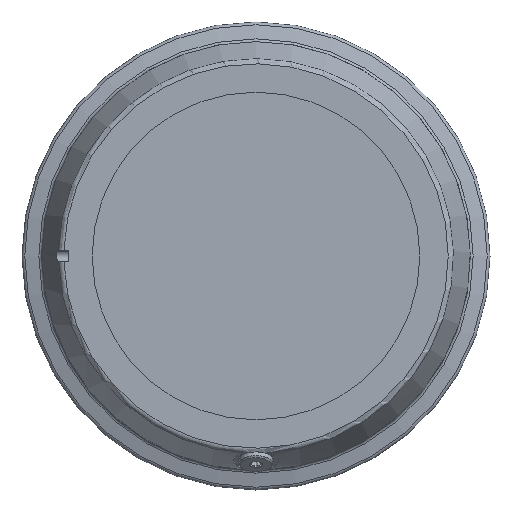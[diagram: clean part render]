
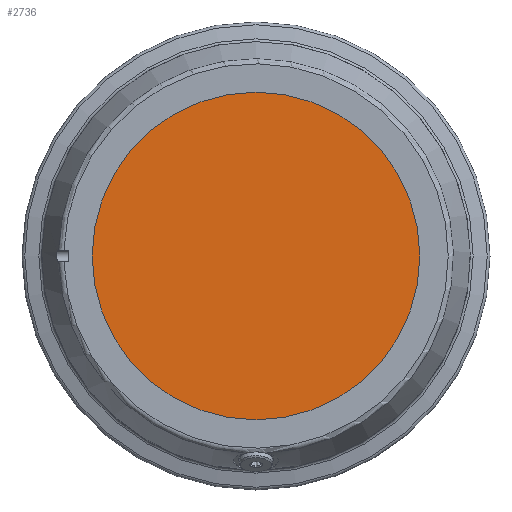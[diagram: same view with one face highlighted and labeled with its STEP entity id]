
A CAD part, left-side view. The second image highlights one B-rep face of the part: STEP entity #2736.
In plain terms, the highlighted planar face has unit normal (-1, 0, 0).
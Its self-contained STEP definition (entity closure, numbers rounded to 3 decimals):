
#474 = CARTESIAN_POINT ( 'NONE',  ( 1747.2, -87.5, 2525. ) ) ;
#1049 = CARTESIAN_POINT ( 'NONE',  ( 1747.2, 0., 2525. ) ) ;
#1878 = DIRECTION ( 'NONE',  ( -1., 0., 0. ) ) ;
#2419 = AXIS2_PLACEMENT_3D ( 'NONE', #3541, #1878, #6710 ) ;
#2736 = ADVANCED_FACE ( 'NONE', ( #6036 ), #5630, .T. ) ;
#3112 = VERTEX_POINT ( 'NONE', #474 ) ;
#3126 = DIRECTION ( 'NONE',  ( -1., 0., 0. ) ) ;
#3541 = CARTESIAN_POINT ( 'NONE',  ( 1747.2, 0., 2525. ) ) ;
#4763 = EDGE_CURVE ( 'NONE', #3112, #3112, #4966, .T. ) ;
#4966 = CIRCLE ( 'NONE', #6522, 87.5 ) ;
#5213 = DIRECTION ( 'NONE',  ( 0., -1., 0. ) ) ;
#5577 = ORIENTED_EDGE ( 'NONE', *, *, #4763, .T. ) ;
#5630 = PLANE ( 'NONE',  #2419 ) ;
#5707 = EDGE_LOOP ( 'NONE', ( #5577 ) ) ;
#6036 = FACE_OUTER_BOUND ( 'NONE', #5707, .T. ) ;
#6522 = AXIS2_PLACEMENT_3D ( 'NONE', #1049, #3126, #5213 ) ;
#6710 = DIRECTION ( 'NONE',  ( 0., -1., 0. ) ) ;
